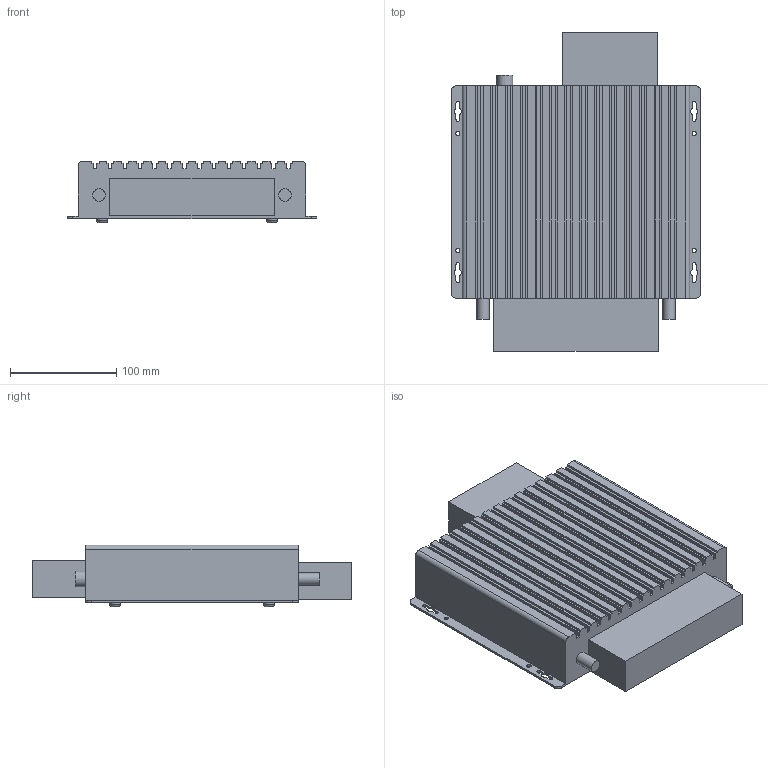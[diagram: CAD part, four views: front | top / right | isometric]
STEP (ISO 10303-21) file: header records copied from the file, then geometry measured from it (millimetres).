
FILE_DESCRIPTION(/* description */ ('Unknown'),/* implementation_level */ '2;1');
FILE_NAME(/* name */ 'eRX i5 3337u V2',/* time_stamp */ '2022-06-17T08:58:48+02:00',/* author */ ('Unknown'),/* organization */ ('Unknown'),/* preprocessor_version */ 'ST-DEVELOPER v18.1',/* originating_system */ 'Solid Edge',/* authorisation */ 'Unknown');
FILE_SCHEMA (('AUTOMOTIVE_DESIGN {1 0 10303 214 3 1 1}'));
Length unit declared in the file: millimetre
Products named in the file (1): eRX i5 3337u V2
Bounding box: 235 x 300 x 58 mm (x, y, z)
Volume: 2667556.8 mm3; surface area: 211591.3 mm2
Topology: 1 solids, 9 shells, 224 faces, 590 edges, 397 vertices
Faces by surface type: plane 175, cylinder 45, torus 4
Full cylindrical faces by diameter (mm): 3 x12, 4 x4, 10 x4, 11.654 x2, 15 x1
Entity records: 8243 total; most frequent: CARTESIAN_POINT 1155, ORIENTED_EDGE 1096, DIRECTION 1092, EDGE_CURVE 548, LINE 454, VECTOR 454, VERTEX_POINT 382, AXIS2_PLACEMENT_3D 319
